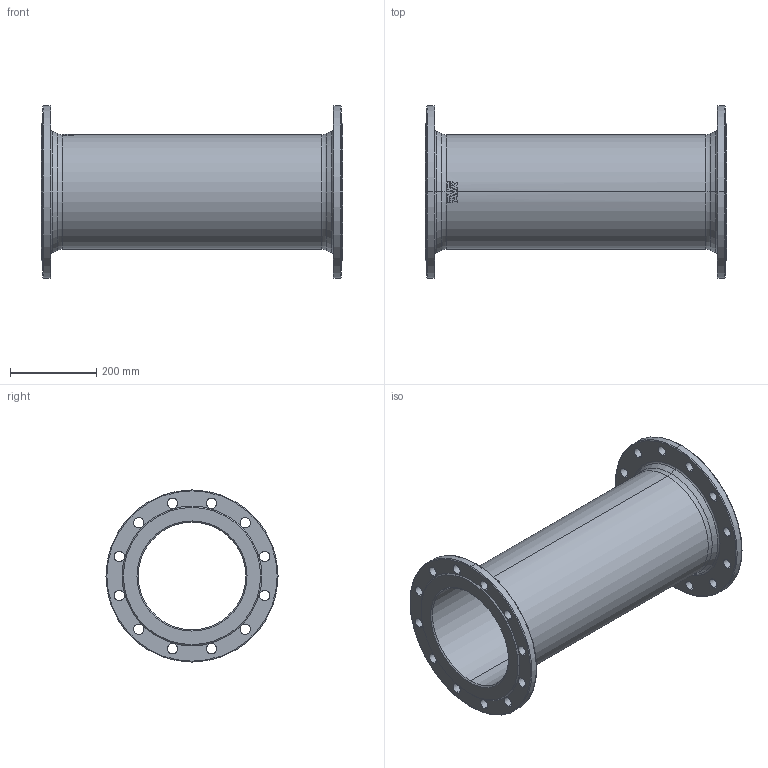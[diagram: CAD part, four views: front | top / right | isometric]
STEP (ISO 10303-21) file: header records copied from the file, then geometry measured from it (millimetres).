
FILE_DESCRIPTION (( 'STEP AP203' ), '1' );
FILE_NAME ('O_712_5010_DN250_0X_REV01.step', '2021-12-03T09:50:25', ( '' ), ( '' ), 'SwSTEP 2.0', 'SolidWorks 2019', '' );
FILE_SCHEMA (( 'CONFIG_CONTROL_DESIGN' ));
Length unit declared in the file: millimetre
Products named in the file (1): O_712_5010_DN250_0X_REV01
Bounding box: 700 x 400 x 400 mm (x, y, z)
Volume: 7313458.3 mm3; surface area: 1434602.8 mm2
Topology: 1 solids, 1 shells, 132 faces, 343 edges, 220 vertices
Faces by surface type: cylinder 61, plane 26, bspline 17, torus 16, cone 12
Entity records: 4890 total; most frequent: CARTESIAN_POINT 1415, DIRECTION 735, ORIENTED_EDGE 686, EDGE_CURVE 343, AXIS2_PLACEMENT_3D 310, VERTEX_POINT 220, CIRCLE 194, EDGE_LOOP 189
